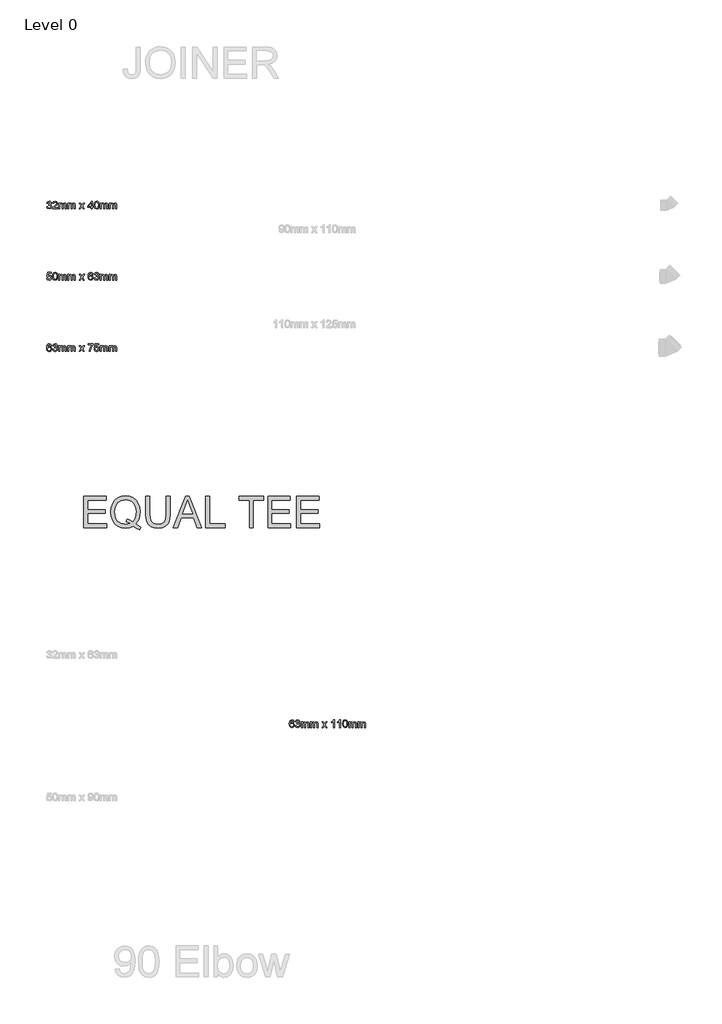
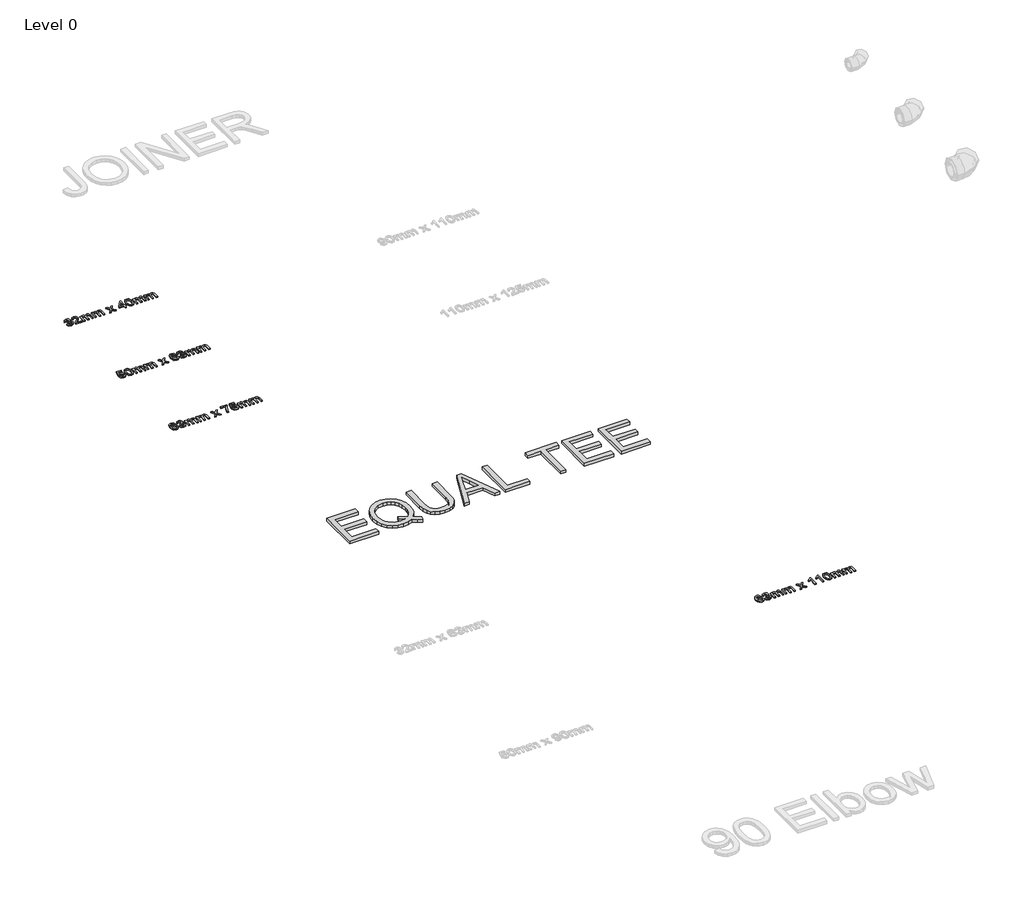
# One storey, part 8 of 21: 5 proxies.
"""IFC4 building model written with IfcOpenShell, lengths in millimetres."""

from ifc_helpers import new_model, si_unit, origin, origin_with_axes, place, context, project, spatial, polyline, outline, extrude, element, save

model = new_model("IFC4")

# Units and contexts
model_context = context("Model", 3, world=origin())
ifc_project = project(units=[si_unit("LENGTHUNIT", "METRE", prefix="MILLI")], contexts=[model_context])

# Site, building, storey
site = spatial("IfcSite", under=ifc_project)
building = spatial("IfcBuilding", under=site)
storey = spatial("IfcBuildingStorey", under=building, Name="Level 0", Elevation=0.0)

# Proxies
placement = place(None, origin())
element("IfcBuildingElementProxy", 1, Name="200mm Arial", ObjectType="200mm Arial", at=placement, inside=storey, context=model_context, shape_type="SweptSolid", body=[
    extrude(outline(polyline([(-11399.4990442, -4453.2112631), (-11399.4990442, -4252.2986428), (-11255.0930983, -4252.2986428), (-11255.0930983, -4277.4127203), (-11374.3849666, -4277.4127203), (-11374.3849666, -4337.0586545), (-11261.3716177, -4337.0586545), (-11261.3716177, -4362.172732), (-11374.3849666, -4362.172732), (-11374.3849666, -4428.0971856), (-11251.9538387, -4428.0971856), (-11251.9538387, -4453.2112631), (-11399.4990442, -4453.2112631)])), origin_with_axes(), (0.0, 0.0, 1.0), 15.0),
    extrude(outline(polyline([(-11063.3530025, -4429.1272551), (-11032.2056602, -4450.0720034), (-11038.9746889, -4468.4661032), (-11059.6864452, -4458.8643831), (-11080.3246252, -4444.9707064), (-11103.5625045, -4453.5055687), (-11129.1303032, -4456.3505228), (-11154.8207292, -4453.0702417), (-11178.0340831, -4443.2293983), (-11197.4766465, -4427.4472607), (-11211.8547012, -4406.3430969), (-11220.7390514, -4381.0757352), (-11223.7005014, -4352.8040039), (-11220.7451827, -4324.5077471), (-11211.8792266, -4298.8725034), (-11197.5563543, -4277.4679026), (-11178.2302868, -4261.8635747), (-11155.1027721, -4252.335431), (-11129.3755579, -4249.1593831), (-11103.4460086, -4252.4090074), (-11080.2019978, -4262.1578803), (-11060.9065872, -4277.7560769), (-11046.8228381, -4298.5536723), (-11038.2143995, -4323.4470207), (-11035.3449199, -4351.3324759), (-11037.086228, -4374.5213043), (-11042.3101523, -4395.2330607), (-11051.0534811, -4413.4432194), (-11063.3530025, -4429.1272551)]), holes=[polyline([(-11122.2141217, -4395.72357), (-11101.0976952, -4403.7066093), (-11084.0524961, -4414.8043828), (-11073.7303404, -4403.1547863), (-11066.3573721, -4388.9054903), (-11061.9335911, -4372.056495), (-11060.4589974, -4352.6078001), (-11062.5436621, -4330.5042236), (-11068.797656, -4311.3804912), (-11079.067695, -4295.720981), (-11093.200495, -4284.0100708), (-11110.2395627, -4276.7076132), (-11129.2284051, -4274.2734606), (-11156.5988255, -4279.196948), (-11178.8679489, -4293.9674101), (-11187.4947817, -4305.0268626), (-11193.6568052, -4318.5112706), (-11198.5864239, -4352.7549529), (-11193.7119874, -4386.2628713), (-11187.6189419, -4399.7104911), (-11179.0886781, -4410.9538846), (-11156.8869997, -4426.1658051), (-11129.277456, -4431.2364452), (-11102.2503921, -4426.0860973), (-11128.6888448, -4414.9515356), (-11122.2141217, -4395.72357)])]), origin_with_axes(), (0.0, 0.0, 1.0), 15.0),
    extrude(outline(polyline([(-10865.8248965, -4252.2986428), (-10840.710819, -4252.2986428), (-10840.710819, -4368.2059967), (-10842.4153389, -4395.3495566), (-10847.5288986, -4416.2513853), (-10857.0815678, -4432.3768794), (-10872.1034159, -4445.1914356), (-10892.6312312, -4453.560751), (-10918.701802, -4456.3505228), (-10944.2021556, -4453.9225016), (-10964.5889495, -4446.6384381), (-10979.868315, -4434.7497183), (-10990.0463836, -4418.5077282), (-10995.7669486, -4396.7229827), (-10997.6738036, -4368.2059967), (-10997.6738036, -4252.2986428), (-10972.559726, -4252.2986428), (-10972.559726, -4367.3230799), (-10971.32119, -4389.8926404), (-10967.6055818, -4405.6073329), (-10960.8733413, -4416.4905086), (-10950.5849082, -4424.5655184), (-10937.1694781, -4429.5687135), (-10921.0562467, -4431.2364452), (-10895.5129735, -4427.93777), (-10878.5290881, -4418.0417444), (-10869.0009444, -4398.7647278), (-10865.8248965, -4367.3230799), (-10865.8248965, -4252.2986428)])), origin_with_axes(), (0.0, 0.0, 1.0), 15.0),
    extrude(outline(polyline([(-10820.1584782, -4453.2112631), (-10739.9602032, -4252.2986428), (-10718.5739966, -4252.2986428), (-10638.3757216, -4453.2112631), (-10664.9122762, -4453.2112631), (-10687.9171636, -4390.4260692), (-10770.6660871, -4390.4260692), (-10793.6219236, -4453.2112631), (-10820.1584782, -4453.2112631)]), holes=[polyline([(-10761.4445118, -4365.3119917), (-10697.0896881, -4365.3119917), (-10715.1894822, -4315.9177025), (-10729.2670999, -4277.4127203), (-10741.7750877, -4311.6012204), (-10761.4445118, -4365.3119917)])]), origin_with_axes(), (0.0, 0.0, 1.0), 15.0),
    extrude(outline(polyline([(-10611.5448614, -4453.2112631), (-10611.5448614, -4252.2986428), (-10586.4307839, -4252.2986428), (-10586.4307839, -4428.0971856), (-10485.9744738, -4428.0971856), (-10485.9744738, -4453.2112631), (-10611.5448614, -4453.2112631)])), origin_with_axes(), (0.0, 0.0, 1.0), 15.0),
    extrude(outline(polyline([(-10329.0114892, -4453.2112631), (-10329.0114892, -4277.4127203), (-10394.9359427, -4277.4127203), (-10394.9359427, -4252.2986428), (-10237.9729581, -4252.2986428), (-10237.9729581, -4277.4127203), (-10303.8974116, -4277.4127203), (-10303.8974116, -4453.2112631), (-10329.0114892, -4453.2112631)])), origin_with_axes(), (0.0, 0.0, 1.0), 15.0),
    extrude(outline(polyline([(-10209.7196209, -4453.2112631), (-10209.7196209, -4252.2986428), (-10065.313675, -4252.2986428), (-10065.313675, -4277.4127203), (-10184.6055433, -4277.4127203), (-10184.6055433, -4337.0586545), (-10071.5921944, -4337.0586545), (-10071.5921944, -4362.172732), (-10184.6055433, -4362.172732), (-10184.6055433, -4428.0971856), (-10062.1744153, -4428.0971856), (-10062.1744153, -4453.2112631), (-10209.7196209, -4453.2112631)])), origin_with_axes(), (0.0, 0.0, 1.0), 15.0),
    extrude(outline(polyline([(-10024.503299, -4453.2112631), (-10024.503299, -4252.2986428), (-9880.0973532, -4252.2986428), (-9880.0973532, -4277.4127203), (-9999.3892215, -4277.4127203), (-9999.3892215, -4337.0586545), (-9886.3758726, -4337.0586545), (-9886.3758726, -4362.172732), (-9999.3892215, -4362.172732), (-9999.3892215, -4428.0971856), (-9876.9580935, -4428.0971856), (-9876.9580935, -4453.2112631), (-10024.503299, -4453.2112631)])), origin_with_axes(), (0.0, 0.0, 1.0), 15.0),
])
element("IfcBuildingElementProxy", 2, Name="50mm", ObjectType="50mm", at=placement, inside=storey, context=model_context, shape_type="SweptSolid", body=[
    extrude(outline(polyline([(-11638.2285688, -2383.2605095), (-11631.9500494, -2382.4756946), (-11628.4858273, -2389.0853078), (-11622.0049728, -2391.1086588), (-11614.3775528, -2388.3250183), (-11611.5448614, -2381.4333623), (-11614.3530273, -2374.9402451), (-11621.4899381, -2372.3712025), (-11625.8922593, -2373.0579155), (-11625.1932835, -2366.7793962), (-11617.0630914, -2365.0503508), (-11613.8993062, -2359.5075954), (-11616.1924373, -2354.5963707), (-11622.1030747, -2352.6527275), (-11628.0872885, -2354.6147648), (-11631.1652345, -2360.5008768), (-11637.4437539, -2359.7160618), (-11632.3056687, -2349.8690871), (-11622.3238039, -2346.3742082), (-11614.7515662, -2348.0971222), (-11609.4540654, -2352.8060117), (-11607.6207868, -2359.1397134), (-11609.3620949, -2364.9277234), (-11614.5124429, -2369.08479), (-11607.6698378, -2373.3767466), (-11605.2663421, -2381.5437269), (-11610.0733335, -2392.7763905), (-11622.225702, -2397.3871782), (-11633.2376364, -2393.4508408), (-11638.2285688, -2383.2605095)])), origin_with_axes(), (0.0, 0.0, 1.0), 5.0),
    extrude(outline(polyline([(-11567.5952258, -2390.3238438), (-11567.5952258, -2396.6023632), (-11600.5574525, -2396.6023632), (-11599.8830022, -2392.2736184), (-11596.0692922, -2385.6088229), (-11588.2088802, -2378.3308908), (-11577.3686241, -2367.8707794), (-11574.6585601, -2360.7583942), (-11577.2153399, -2355.0010409), (-11583.8923981, -2352.6527275), (-11590.8514992, -2354.9458586), (-11593.4941182, -2361.2856917), (-11599.7726376, -2360.5008768), (-11594.9595148, -2349.9917144), (-11583.7575081, -2346.3742082), (-11572.5187131, -2350.3963846), (-11568.3800407, -2360.3782494), (-11569.4959494, -2366.3318064), (-11573.2054262, -2372.4876984), (-11582.200141, -2381.0900058), (-11589.4228908, -2387.1294019), (-11592.2555822, -2390.3238438), (-11567.5952258, -2390.3238438)])), origin_with_axes(), (0.0, 0.0, 1.0), 5.0),
    extrude(outline(polyline([(-11559.7470765, -2396.6023632), (-11559.7470765, -2359.7160618), (-11553.4685571, -2359.7160618), (-11553.4685571, -2365.7861148), (-11549.1520751, -2360.8135765), (-11543.0084457, -2358.9312469), (-11536.7176636, -2360.8503647), (-11533.2595729, -2366.2275732), (-11528.360611, -2360.7553285), (-11522.1740621, -2358.9312469), (-11513.9641622, -2361.9662734), (-11511.0885513, -2371.3166074), (-11511.0885513, -2396.6023632), (-11517.3670707, -2396.6023632), (-11517.3670707, -2374.0144087), (-11517.9495505, -2368.7720903), (-11520.0587406, -2366.190785), (-11523.6455901, -2365.2097663), (-11529.8198762, -2367.7236266), (-11532.2785542, -2375.7802423), (-11532.2785542, -2396.6023632), (-11538.5570736, -2396.6023632), (-11538.5570736, -2373.3154329), (-11540.0102075, -2367.2331173), (-11544.7742793, -2365.2097663), (-11549.4218552, -2366.558667), (-11552.512064, -2370.507267), (-11553.4685571, -2377.999797), (-11553.4685571, -2396.6023632), (-11559.7470765, -2396.6023632)])), origin_with_axes(), (0.0, 0.0, 1.0), 5.0),
    extrude(outline(polyline([(-11501.6707722, -2396.6023632), (-11501.6707722, -2359.7160618), (-11495.3922528, -2359.7160618), (-11495.3922528, -2365.7861148), (-11491.0757708, -2360.8135765), (-11484.9321414, -2358.9312469), (-11478.6413593, -2360.8503647), (-11475.1832686, -2366.2275732), (-11470.2843067, -2360.7553285), (-11464.0977578, -2358.9312469), (-11455.8878579, -2361.9662734), (-11453.012247, -2371.3166074), (-11453.012247, -2396.6023632), (-11459.2907664, -2396.6023632), (-11459.2907664, -2374.0144087), (-11459.8732462, -2368.7720903), (-11461.9824363, -2366.190785), (-11465.5692858, -2365.2097663), (-11471.7435719, -2367.7236266), (-11474.2022499, -2375.7802423), (-11474.2022499, -2396.6023632), (-11480.4807693, -2396.6023632), (-11480.4807693, -2373.3154329), (-11481.9339032, -2367.2331173), (-11486.697975, -2365.2097663), (-11491.3455509, -2366.558667), (-11494.4357597, -2370.507267), (-11495.3922528, -2377.999797), (-11495.3922528, -2396.6023632), (-11501.6707722, -2396.6023632)])), origin_with_axes(), (0.0, 0.0, 1.0), 5.0),
    extrude(outline(polyline([(-11427.8981695, -2396.6023632), (-11414.4827394, -2378.0611107), (-11427.1133545, -2359.7160618), (-11419.5595109, -2359.7160618), (-11413.4649325, -2368.5452297), (-11410.6199784, -2372.714559), (-11408.155169, -2369.3055192), (-11401.2144621, -2359.7160618), (-11393.6606184, -2359.7160618), (-11406.9288957, -2378.0611107), (-11394.1511278, -2396.6023632), (-11401.7049714, -2396.6023632), (-11409.3937051, -2385.4555388), (-11410.8039194, -2383.4199251), (-11420.3443258, -2396.6023632), (-11427.8981695, -2396.6023632)])), origin_with_axes(), (0.0, 0.0, 1.0), 5.0),
    extrude(outline(polyline([(-11350.2014921, -2396.6023632), (-11350.2014921, -2384.8301394), (-11372.9611248, -2384.8301394), (-11372.9611248, -2378.55162), (-11348.6318622, -2347.1590231), (-11343.9229727, -2347.1590231), (-11343.9229727, -2378.55162), (-11337.6444533, -2378.55162), (-11337.6444533, -2384.8301394), (-11343.9229727, -2384.8301394), (-11343.9229727, -2396.6023632), (-11350.2014921, -2396.6023632)]), holes=[polyline([(-11350.2014921, -2378.55162), (-11350.2014921, -2359.1519761), (-11365.2356029, -2378.55162), (-11350.2014921, -2378.55162)])]), origin_with_axes(), (0.0, 0.0, 1.0), 5.0),
    extrude(outline(polyline([(-11332.1507488, -2371.8929559), (-11330.3052075, -2357.4413248), (-11324.8237658, -2349.1087977), (-11315.6696355, -2346.3742082), (-11308.336521, -2347.9928889), (-11303.2720122, -2352.6588589), (-11300.3289563, -2360.0900752), (-11299.1885221, -2371.8929559), (-11301.0156693, -2386.2832733), (-11306.4787169, -2394.6341946), (-11315.6696355, -2397.3871782), (-11327.1475537, -2392.6047122), (-11330.8999501, -2384.1097038), (-11332.1507488, -2371.8929559)]), holes=[polyline([(-11325.8722295, -2371.8806932), (-11322.9291735, -2387.4727584), (-11315.6696355, -2391.1086588), (-11308.4100974, -2387.4604957), (-11305.4670415, -2371.8806932), (-11308.3119956, -2356.4664376), (-11315.7432119, -2352.6527275), (-11322.8310716, -2356.0127164), (-11325.8722295, -2371.8806932)])]), origin_with_axes(), (0.0, 0.0, 1.0), 5.0),
    extrude(outline(polyline([(-11292.1251878, -2396.6023632), (-11292.1251878, -2359.7160618), (-11285.8466684, -2359.7160618), (-11285.8466684, -2365.7861148), (-11281.5301863, -2360.8135765), (-11275.386557, -2358.9312469), (-11269.0957749, -2360.8503647), (-11265.6376841, -2366.2275732), (-11260.7387222, -2360.7553285), (-11254.5521733, -2358.9312469), (-11246.3422735, -2361.9662734), (-11243.4666625, -2371.3166074), (-11243.4666625, -2396.6023632), (-11249.7451819, -2396.6023632), (-11249.7451819, -2374.0144087), (-11250.3276618, -2368.7720903), (-11252.4368519, -2366.190785), (-11256.0237013, -2365.2097663), (-11262.1979875, -2367.7236266), (-11264.6566655, -2375.7802423), (-11264.6566655, -2396.6023632), (-11270.9351848, -2396.6023632), (-11270.9351848, -2373.3154329), (-11272.3883187, -2367.2331173), (-11277.1523906, -2365.2097663), (-11281.7999664, -2366.558667), (-11284.8901752, -2370.507267), (-11285.8466684, -2377.999797), (-11285.8466684, -2396.6023632), (-11292.1251878, -2396.6023632)])), origin_with_axes(), (0.0, 0.0, 1.0), 5.0),
    extrude(outline(polyline([(-11234.0488835, -2396.6023632), (-11234.0488835, -2359.7160618), (-11227.7703641, -2359.7160618), (-11227.7703641, -2365.7861148), (-11223.453882, -2360.8135765), (-11217.3102527, -2358.9312469), (-11211.0194706, -2360.8503647), (-11207.5613798, -2366.2275732), (-11202.6624179, -2360.7553285), (-11196.475869, -2358.9312469), (-11188.2659692, -2361.9662734), (-11185.3903582, -2371.3166074), (-11185.3903582, -2396.6023632), (-11191.6688776, -2396.6023632), (-11191.6688776, -2374.0144087), (-11192.2513574, -2368.7720903), (-11194.3605476, -2366.190785), (-11197.947397, -2365.2097663), (-11204.1216832, -2367.7236266), (-11206.5803612, -2375.7802423), (-11206.5803612, -2396.6023632), (-11212.8588805, -2396.6023632), (-11212.8588805, -2373.3154329), (-11214.3120144, -2367.2331173), (-11219.0760863, -2365.2097663), (-11223.7236621, -2366.558667), (-11226.8138709, -2370.507267), (-11227.7703641, -2377.999797), (-11227.7703641, -2396.6023632), (-11234.0488835, -2396.6023632)])), origin_with_axes(), (0.0, 0.0, 1.0), 5.0),
])
element("IfcBuildingElementProxy", 3, Name="50mm", ObjectType="50mm", at=placement, inside=storey, context=model_context, shape_type="SweptSolid", body=[
    extrude(outline(polyline([(-11638.2285688, -2843.2605095), (-11631.9500494, -2842.4756946), (-11628.7862643, -2848.9442864), (-11622.225702, -2851.1086588), (-11614.3530273, -2848.0981578), (-11611.5448614, -2840.1089871), (-11614.1752177, -2832.6532453), (-11622.1276002, -2829.9186558), (-11627.6396987, -2831.0100391), (-11631.1652345, -2833.8427305), (-11637.4437539, -2833.0579155), (-11631.9500494, -2807.1590231), (-11607.6207868, -2807.1590231), (-11607.6207868, -2813.4375425), (-11626.8732779, -2813.4375425), (-11629.5588165, -2827.2699055), (-11620.3740293, -2823.6401365), (-11609.6380064, -2828.1405595), (-11605.2663421, -2839.7165797), (-11609.2026794, -2851.3661762), (-11614.8557994, -2855.8819277), (-11622.2502275, -2857.3871782), (-11633.3296069, -2853.5182858), (-11638.2285688, -2843.2605095)])), origin_with_axes(), (0.0, 0.0, 1.0), 5.0),
    extrude(outline(polyline([(-11599.7726376, -2831.8929559), (-11597.9270963, -2817.4413248), (-11592.4456545, -2809.1087977), (-11583.2915242, -2806.3742082), (-11575.9584098, -2807.9928889), (-11570.893901, -2812.6588589), (-11567.950845, -2820.0900752), (-11566.8104108, -2831.8929559), (-11568.6375581, -2846.2832733), (-11574.1006057, -2854.6341946), (-11583.2915242, -2857.3871782), (-11594.7694425, -2852.6047122), (-11598.5218388, -2844.1097038), (-11599.7726376, -2831.8929559)]), holes=[polyline([(-11593.4941182, -2831.8806932), (-11590.5510623, -2847.4727584), (-11583.2915242, -2851.1086588), (-11576.0319862, -2847.4604957), (-11573.0889302, -2831.8806932), (-11575.9338843, -2816.4664376), (-11583.3651006, -2812.6527275), (-11590.4529604, -2816.0127164), (-11593.4941182, -2831.8806932)])]), origin_with_axes(), (0.0, 0.0, 1.0), 5.0),
    extrude(outline(polyline([(-11559.7470765, -2856.6023632), (-11559.7470765, -2819.7160618), (-11553.4685571, -2819.7160618), (-11553.4685571, -2825.7861148), (-11549.1520751, -2820.8135765), (-11543.0084457, -2818.9312469), (-11536.7176636, -2820.8503647), (-11533.2595729, -2826.2275732), (-11528.360611, -2820.7553285), (-11522.1740621, -2818.9312469), (-11513.9641622, -2821.9662734), (-11511.0885513, -2831.3166074), (-11511.0885513, -2856.6023632), (-11517.3670707, -2856.6023632), (-11517.3670707, -2834.0144087), (-11517.9495505, -2828.7720903), (-11520.0587406, -2826.190785), (-11523.6455901, -2825.2097663), (-11529.8198762, -2827.7236266), (-11532.2785542, -2835.7802423), (-11532.2785542, -2856.6023632), (-11538.5570736, -2856.6023632), (-11538.5570736, -2833.3154329), (-11540.0102075, -2827.2331173), (-11544.7742793, -2825.2097663), (-11549.4218552, -2826.558667), (-11552.512064, -2830.507267), (-11553.4685571, -2837.999797), (-11553.4685571, -2856.6023632), (-11559.7470765, -2856.6023632)])), origin_with_axes(), (0.0, 0.0, 1.0), 5.0),
    extrude(outline(polyline([(-11501.6707722, -2856.6023632), (-11501.6707722, -2819.7160618), (-11495.3922528, -2819.7160618), (-11495.3922528, -2825.7861148), (-11491.0757708, -2820.8135765), (-11484.9321414, -2818.9312469), (-11478.6413593, -2820.8503647), (-11475.1832686, -2826.2275732), (-11470.2843067, -2820.7553285), (-11464.0977578, -2818.9312469), (-11455.8878579, -2821.9662734), (-11453.012247, -2831.3166074), (-11453.012247, -2856.6023632), (-11459.2907664, -2856.6023632), (-11459.2907664, -2834.0144087), (-11459.8732462, -2828.7720903), (-11461.9824363, -2826.190785), (-11465.5692858, -2825.2097663), (-11471.7435719, -2827.7236266), (-11474.2022499, -2835.7802423), (-11474.2022499, -2856.6023632), (-11480.4807693, -2856.6023632), (-11480.4807693, -2833.3154329), (-11481.9339032, -2827.2331173), (-11486.697975, -2825.2097663), (-11491.3455509, -2826.558667), (-11494.4357597, -2830.507267), (-11495.3922528, -2837.999797), (-11495.3922528, -2856.6023632), (-11501.6707722, -2856.6023632)])), origin_with_axes(), (0.0, 0.0, 1.0), 5.0),
    extrude(outline(polyline([(-11427.8981695, -2856.6023632), (-11414.4827394, -2838.0611107), (-11427.1133545, -2819.7160618), (-11419.5595109, -2819.7160618), (-11413.4649325, -2828.5452297), (-11410.6199784, -2832.714559), (-11408.155169, -2829.3055192), (-11401.2144621, -2819.7160618), (-11393.6606184, -2819.7160618), (-11406.9288957, -2838.0611107), (-11394.1511278, -2856.6023632), (-11401.7049714, -2856.6023632), (-11409.3937051, -2845.4555388), (-11410.8039194, -2843.4199251), (-11420.3443258, -2856.6023632), (-11427.8981695, -2856.6023632)])), origin_with_axes(), (0.0, 0.0, 1.0), 5.0),
    extrude(outline(polyline([(-11338.4292682, -2819.7160618), (-11344.7077876, -2820.5008768), (-11347.0867578, -2815.2646897), (-11353.37754, -2812.6527275), (-11359.0429227, -2814.1733065), (-11363.3287479, -2819.8816087), (-11365.1129756, -2831.0713528), (-11359.5763516, -2826.0620263), (-11352.7153524, -2824.4249514), (-11342.0467745, -2828.900849), (-11337.6444533, -2840.4646064), (-11339.7168552, -2849.1282274), (-11345.4190261, -2855.2595939), (-11353.6473201, -2857.3871782), (-11366.4434822, -2851.7463209), (-11370.1544918, -2844.2783164), (-11371.391495, -2833.1560174), (-11370.0180689, -2820.6510953), (-11365.8977905, -2812.1009045), (-11360.2722617, -2807.8058823), (-11352.9851325, -2806.3742082), (-11343.0645814, -2809.918138), (-11338.4292682, -2819.7160618)]), holes=[polyline([(-11365.1129756, -2840.3665045), (-11363.6598417, -2845.8050267), (-11359.7970808, -2849.7536268), (-11354.1378294, -2851.1086588), (-11346.73727, -2848.3004929), (-11343.9229727, -2840.6730728), (-11346.7004818, -2833.3706152), (-11354.3953468, -2830.7034708), (-11361.99211, -2833.3706152), (-11365.1129756, -2840.3665045)])]), origin_with_axes(), (0.0, 0.0, 1.0), 5.0),
    extrude(outline(polyline([(-11332.1507488, -2843.2605095), (-11325.8722295, -2842.4756946), (-11322.4080073, -2849.0853078), (-11315.9271529, -2851.1086588), (-11308.2997328, -2848.3250183), (-11305.4670415, -2841.4333623), (-11308.2752074, -2834.9402451), (-11315.4121181, -2832.3712025), (-11319.8144393, -2833.0579155), (-11319.1154635, -2826.7793962), (-11310.9852714, -2825.0503508), (-11307.8214862, -2819.5075954), (-11310.1146173, -2814.5963707), (-11316.0252547, -2812.6527275), (-11322.0094685, -2814.6147648), (-11325.0874145, -2820.5008768), (-11331.3659339, -2819.7160618), (-11326.2278487, -2809.8690871), (-11316.2459839, -2806.3742082), (-11308.6737462, -2808.0971222), (-11303.3762455, -2812.8060117), (-11301.5429668, -2819.1397134), (-11303.284275, -2824.9277234), (-11308.4346229, -2829.08479), (-11301.5920178, -2833.3767466), (-11299.1885221, -2841.5437269), (-11303.9955135, -2852.7763905), (-11316.1478821, -2857.3871782), (-11327.1598164, -2853.4508408), (-11332.1507488, -2843.2605095)])), origin_with_axes(), (0.0, 0.0, 1.0), 5.0),
    extrude(outline(polyline([(-11292.1251878, -2856.6023632), (-11292.1251878, -2819.7160618), (-11285.8466684, -2819.7160618), (-11285.8466684, -2825.7861148), (-11281.5301863, -2820.8135765), (-11275.386557, -2818.9312469), (-11269.0957749, -2820.8503647), (-11265.6376841, -2826.2275732), (-11260.7387222, -2820.7553285), (-11254.5521733, -2818.9312469), (-11246.3422735, -2821.9662734), (-11243.4666625, -2831.3166074), (-11243.4666625, -2856.6023632), (-11249.7451819, -2856.6023632), (-11249.7451819, -2834.0144087), (-11250.3276618, -2828.7720903), (-11252.4368519, -2826.190785), (-11256.0237013, -2825.2097663), (-11262.1979875, -2827.7236266), (-11264.6566655, -2835.7802423), (-11264.6566655, -2856.6023632), (-11270.9351848, -2856.6023632), (-11270.9351848, -2833.3154329), (-11272.3883187, -2827.2331173), (-11277.1523906, -2825.2097663), (-11281.7999664, -2826.558667), (-11284.8901752, -2830.507267), (-11285.8466684, -2837.999797), (-11285.8466684, -2856.6023632), (-11292.1251878, -2856.6023632)])), origin_with_axes(), (0.0, 0.0, 1.0), 5.0),
    extrude(outline(polyline([(-11234.0488835, -2856.6023632), (-11234.0488835, -2819.7160618), (-11227.7703641, -2819.7160618), (-11227.7703641, -2825.7861148), (-11223.453882, -2820.8135765), (-11217.3102527, -2818.9312469), (-11211.0194706, -2820.8503647), (-11207.5613798, -2826.2275732), (-11202.6624179, -2820.7553285), (-11196.475869, -2818.9312469), (-11188.2659692, -2821.9662734), (-11185.3903582, -2831.3166074), (-11185.3903582, -2856.6023632), (-11191.6688776, -2856.6023632), (-11191.6688776, -2834.0144087), (-11192.2513574, -2828.7720903), (-11194.3605476, -2826.190785), (-11197.947397, -2825.2097663), (-11204.1216832, -2827.7236266), (-11206.5803612, -2835.7802423), (-11206.5803612, -2856.6023632), (-11212.8588805, -2856.6023632), (-11212.8588805, -2833.3154329), (-11214.3120144, -2827.2331173), (-11219.0760863, -2825.2097663), (-11223.7236621, -2826.558667), (-11226.8138709, -2830.507267), (-11227.7703641, -2837.999797), (-11227.7703641, -2856.6023632), (-11234.0488835, -2856.6023632)])), origin_with_axes(), (0.0, 0.0, 1.0), 5.0),
])
element("IfcBuildingElementProxy", 4, Name="50mm", ObjectType="50mm", at=placement, inside=storey, context=model_context, shape_type="SweptSolid", body=[
    extrude(outline(polyline([(-11606.051157, -3279.7160618), (-11612.3296764, -3280.5008768), (-11614.7086466, -3275.2646897), (-11620.9994287, -3272.6527275), (-11626.6648115, -3274.1733065), (-11630.9506367, -3279.8816087), (-11632.7348644, -3291.0713528), (-11627.1982403, -3286.0620263), (-11620.3372411, -3284.4249514), (-11609.6686633, -3288.900849), (-11605.2663421, -3300.4646064), (-11607.338744, -3309.1282274), (-11613.0409149, -3315.2595939), (-11621.2692089, -3317.3871782), (-11634.0653709, -3311.7463209), (-11637.7763805, -3304.2783164), (-11639.0133838, -3293.1560174), (-11637.6399576, -3280.6510953), (-11633.5196793, -3272.1009045), (-11627.8941505, -3267.8058823), (-11620.6070213, -3266.3742082), (-11610.6864701, -3269.918138), (-11606.051157, -3279.7160618)]), holes=[polyline([(-11632.7348644, -3300.3665045), (-11631.2817305, -3305.8050267), (-11627.4189695, -3309.7536268), (-11621.7597182, -3311.1086588), (-11614.3591587, -3308.3004929), (-11611.5448614, -3300.6730728), (-11614.3223705, -3293.3706152), (-11622.0172356, -3290.7034708), (-11629.6139988, -3293.3706152), (-11632.7348644, -3300.3665045)])]), origin_with_axes(), (0.0, 0.0, 1.0), 5.0),
    extrude(outline(polyline([(-11599.7726376, -3303.2605095), (-11593.4941182, -3302.4756946), (-11590.0298961, -3309.0853078), (-11583.5490416, -3311.1086588), (-11575.9216216, -3308.3250183), (-11573.0889302, -3301.4333623), (-11575.8970961, -3294.9402451), (-11583.0340068, -3292.3712025), (-11587.436328, -3293.0579155), (-11586.7373522, -3286.7793962), (-11578.6071601, -3285.0503508), (-11575.443375, -3279.5075954), (-11577.7365061, -3274.5963707), (-11583.6471435, -3272.6527275), (-11589.6313573, -3274.6147648), (-11592.7093033, -3280.5008768), (-11598.9878227, -3279.7160618), (-11593.8497375, -3269.8690871), (-11583.8678727, -3266.3742082), (-11576.2956349, -3268.0971222), (-11570.9981342, -3272.8060117), (-11569.1648556, -3279.1397134), (-11570.9061637, -3284.9277234), (-11576.0565116, -3289.08479), (-11569.2139065, -3293.3767466), (-11566.8104108, -3301.5437269), (-11571.6174022, -3312.7763905), (-11583.7697708, -3317.3871782), (-11594.7817052, -3313.4508408), (-11599.7726376, -3303.2605095)])), origin_with_axes(), (0.0, 0.0, 1.0), 5.0),
    extrude(outline(polyline([(-11559.7470765, -3316.6023632), (-11559.7470765, -3279.7160618), (-11553.4685571, -3279.7160618), (-11553.4685571, -3285.7861148), (-11549.1520751, -3280.8135765), (-11543.0084457, -3278.9312469), (-11536.7176636, -3280.8503647), (-11533.2595729, -3286.2275732), (-11528.360611, -3280.7553285), (-11522.1740621, -3278.9312469), (-11513.9641622, -3281.9662734), (-11511.0885513, -3291.3166074), (-11511.0885513, -3316.6023632), (-11517.3670707, -3316.6023632), (-11517.3670707, -3294.0144087), (-11517.9495505, -3288.7720903), (-11520.0587406, -3286.190785), (-11523.6455901, -3285.2097663), (-11529.8198762, -3287.7236266), (-11532.2785542, -3295.7802423), (-11532.2785542, -3316.6023632), (-11538.5570736, -3316.6023632), (-11538.5570736, -3293.3154329), (-11540.0102075, -3287.2331173), (-11544.7742793, -3285.2097663), (-11549.4218552, -3286.558667), (-11552.512064, -3290.507267), (-11553.4685571, -3297.999797), (-11553.4685571, -3316.6023632), (-11559.7470765, -3316.6023632)])), origin_with_axes(), (0.0, 0.0, 1.0), 5.0),
    extrude(outline(polyline([(-11501.6707722, -3316.6023632), (-11501.6707722, -3279.7160618), (-11495.3922528, -3279.7160618), (-11495.3922528, -3285.7861148), (-11491.0757708, -3280.8135765), (-11484.9321414, -3278.9312469), (-11478.6413593, -3280.8503647), (-11475.1832686, -3286.2275732), (-11470.2843067, -3280.7553285), (-11464.0977578, -3278.9312469), (-11455.8878579, -3281.9662734), (-11453.012247, -3291.3166074), (-11453.012247, -3316.6023632), (-11459.2907664, -3316.6023632), (-11459.2907664, -3294.0144087), (-11459.8732462, -3288.7720903), (-11461.9824363, -3286.190785), (-11465.5692858, -3285.2097663), (-11471.7435719, -3287.7236266), (-11474.2022499, -3295.7802423), (-11474.2022499, -3316.6023632), (-11480.4807693, -3316.6023632), (-11480.4807693, -3293.3154329), (-11481.9339032, -3287.2331173), (-11486.697975, -3285.2097663), (-11491.3455509, -3286.558667), (-11494.4357597, -3290.507267), (-11495.3922528, -3297.999797), (-11495.3922528, -3316.6023632), (-11501.6707722, -3316.6023632)])), origin_with_axes(), (0.0, 0.0, 1.0), 5.0),
    extrude(outline(polyline([(-11427.8981695, -3316.6023632), (-11414.4827394, -3298.0611107), (-11427.1133545, -3279.7160618), (-11419.5595109, -3279.7160618), (-11413.4649325, -3288.5452297), (-11410.6199784, -3292.714559), (-11408.155169, -3289.3055192), (-11401.2144621, -3279.7160618), (-11393.6606184, -3279.7160618), (-11406.9288957, -3298.0611107), (-11394.1511278, -3316.6023632), (-11401.7049714, -3316.6023632), (-11409.3937051, -3305.4555388), (-11410.8039194, -3303.4199251), (-11420.3443258, -3316.6023632), (-11427.8981695, -3316.6023632)])), origin_with_axes(), (0.0, 0.0, 1.0), 5.0),
    extrude(outline(polyline([(-11370.6066801, -3273.4375425), (-11370.6066801, -3267.1590231), (-11337.6444533, -3267.1590231), (-11337.6444533, -3272.2357946), (-11346.9947874, -3285.7431952), (-11354.1500922, -3302.9539412), (-11356.4800115, -3316.6023632), (-11362.7585308, -3316.6023632), (-11360.2630646, -3302.4389064), (-11353.4143282, -3286.4299083), (-11343.9229727, -3273.4375425), (-11370.6066801, -3273.4375425)])), origin_with_axes(), (0.0, 0.0, 1.0), 5.0),
    extrude(outline(polyline([(-11332.1507488, -3303.2605095), (-11325.8722295, -3302.4756946), (-11322.7084443, -3308.9442864), (-11316.1478821, -3311.1086588), (-11308.2752074, -3308.0981578), (-11305.4670415, -3300.1089871), (-11308.0973977, -3292.6532453), (-11316.0497802, -3289.9186558), (-11321.5618788, -3291.0100391), (-11325.0874145, -3293.8427305), (-11331.3659339, -3293.0579155), (-11325.8722295, -3267.1590231), (-11301.5429668, -3267.1590231), (-11301.5429668, -3273.4375425), (-11320.7954579, -3273.4375425), (-11323.4809965, -3287.2699055), (-11314.2962093, -3283.6401365), (-11303.5601865, -3288.1405595), (-11299.1885221, -3299.7165797), (-11303.1248594, -3311.3661762), (-11308.7779794, -3315.8819277), (-11316.1724075, -3317.3871782), (-11327.2517869, -3313.5182858), (-11332.1507488, -3303.2605095)])), origin_with_axes(), (0.0, 0.0, 1.0), 5.0),
    extrude(outline(polyline([(-11292.1251878, -3316.6023632), (-11292.1251878, -3279.7160618), (-11285.8466684, -3279.7160618), (-11285.8466684, -3285.7861148), (-11281.5301863, -3280.8135765), (-11275.386557, -3278.9312469), (-11269.0957749, -3280.8503647), (-11265.6376841, -3286.2275732), (-11260.7387222, -3280.7553285), (-11254.5521733, -3278.9312469), (-11246.3422735, -3281.9662734), (-11243.4666625, -3291.3166074), (-11243.4666625, -3316.6023632), (-11249.7451819, -3316.6023632), (-11249.7451819, -3294.0144087), (-11250.3276618, -3288.7720903), (-11252.4368519, -3286.190785), (-11256.0237013, -3285.2097663), (-11262.1979875, -3287.7236266), (-11264.6566655, -3295.7802423), (-11264.6566655, -3316.6023632), (-11270.9351848, -3316.6023632), (-11270.9351848, -3293.3154329), (-11272.3883187, -3287.2331173), (-11277.1523906, -3285.2097663), (-11281.7999664, -3286.558667), (-11284.8901752, -3290.507267), (-11285.8466684, -3297.999797), (-11285.8466684, -3316.6023632), (-11292.1251878, -3316.6023632)])), origin_with_axes(), (0.0, 0.0, 1.0), 5.0),
    extrude(outline(polyline([(-11234.0488835, -3316.6023632), (-11234.0488835, -3279.7160618), (-11227.7703641, -3279.7160618), (-11227.7703641, -3285.7861148), (-11223.453882, -3280.8135765), (-11217.3102527, -3278.9312469), (-11211.0194706, -3280.8503647), (-11207.5613798, -3286.2275732), (-11202.6624179, -3280.7553285), (-11196.475869, -3278.9312469), (-11188.2659692, -3281.9662734), (-11185.3903582, -3291.3166074), (-11185.3903582, -3316.6023632), (-11191.6688776, -3316.6023632), (-11191.6688776, -3294.0144087), (-11192.2513574, -3288.7720903), (-11194.3605476, -3286.190785), (-11197.947397, -3285.2097663), (-11204.1216832, -3287.7236266), (-11206.5803612, -3295.7802423), (-11206.5803612, -3316.6023632), (-11212.8588805, -3316.6023632), (-11212.8588805, -3293.3154329), (-11214.3120144, -3287.2331173), (-11219.0760863, -3285.2097663), (-11223.7236621, -3286.558667), (-11226.8138709, -3290.507267), (-11227.7703641, -3297.999797), (-11227.7703641, -3316.6023632), (-11234.0488835, -3316.6023632)])), origin_with_axes(), (0.0, 0.0, 1.0), 5.0),
])
element("IfcBuildingElementProxy", 5, Name="50mm", ObjectType="50mm", at=placement, inside=storey, context=model_context, shape_type="SweptSolid", body=[
    extrude(outline(polyline([(-10039.462485, -5706.9585336), (-10045.7410044, -5707.7433485), (-10048.1199746, -5702.5071615), (-10054.4107567, -5699.8951993), (-10060.0761395, -5701.4157782), (-10064.3619647, -5707.1240805), (-10066.1461924, -5718.3138245), (-10060.6095684, -5713.304498), (-10053.7485692, -5711.6674232), (-10043.0799913, -5716.1433208), (-10038.6776701, -5727.7070781), (-10040.750072, -5736.3706991), (-10046.4522429, -5742.5020657), (-10054.6805369, -5744.6296499), (-10067.4766989, -5738.9887927), (-10071.1877086, -5731.5207882), (-10072.4247118, -5720.3984892), (-10071.0512857, -5707.893567), (-10066.9310073, -5699.3433763), (-10061.3054785, -5695.048354), (-10054.0183493, -5693.6166799), (-10044.0977981, -5697.1606098), (-10039.462485, -5706.9585336)]), holes=[polyline([(-10066.1461924, -5727.6089763), (-10064.6930585, -5733.0474984), (-10060.8302976, -5736.9960985), (-10055.1710462, -5738.3511305), (-10047.7704867, -5735.5429646), (-10044.9561895, -5727.9155446), (-10047.7336985, -5720.613087), (-10055.4285636, -5717.9459425), (-10063.0253268, -5720.613087), (-10066.1461924, -5727.6089763)])]), origin_with_axes(), (0.0, 0.0, 1.0), 5.0),
    extrude(outline(polyline([(-10033.1839656, -5730.5029813), (-10026.9054462, -5729.7181664), (-10023.4412241, -5736.3277796), (-10016.9603696, -5738.3511305), (-10009.3329496, -5735.5674901), (-10006.5002582, -5728.6758341), (-10009.3084241, -5722.1827169), (-10016.4453348, -5719.6136743), (-10020.8476561, -5720.3003873), (-10020.1486803, -5714.0218679), (-10012.0184882, -5712.2928225), (-10008.854703, -5706.7500672), (-10011.1478341, -5701.8388425), (-10017.0584715, -5699.8951993), (-10023.0426853, -5701.8572366), (-10026.1206313, -5707.7433485), (-10032.3991507, -5706.9585336), (-10027.2610655, -5697.1115589), (-10017.2792007, -5693.6166799), (-10009.706963, -5695.3395939), (-10004.4094622, -5700.0484835), (-10002.5761836, -5706.3821852), (-10004.3174917, -5712.1701952), (-10009.4678397, -5716.3272618), (-10002.6252346, -5720.6192184), (-10000.2217389, -5728.7861987), (-10005.0287303, -5740.0188623), (-10017.1810988, -5744.6296499), (-10028.1930332, -5740.6933126), (-10033.1839656, -5730.5029813)])), origin_with_axes(), (0.0, 0.0, 1.0), 5.0),
    extrude(outline(polyline([(-9993.1584046, -5743.844835), (-9993.1584046, -5706.9585336), (-9986.8798852, -5706.9585336), (-9986.8798852, -5713.0285865), (-9982.5634031, -5708.0560482), (-9976.4197738, -5706.1737187), (-9970.1289917, -5708.0928364), (-9966.6709009, -5713.4700449), (-9961.771939, -5707.9978003), (-9955.5853901, -5706.1737187), (-9947.3754903, -5709.2087452), (-9944.4998793, -5718.5590792), (-9944.4998793, -5743.844835), (-9950.7783987, -5743.844835), (-9950.7783987, -5721.2568805), (-9951.3608785, -5716.0145621), (-9953.4700686, -5713.4332567), (-9957.0569181, -5712.4522381), (-9963.2312042, -5714.9660984), (-9965.6898822, -5723.0227141), (-9965.6898822, -5743.844835), (-9971.9684016, -5743.844835), (-9971.9684016, -5720.5579047), (-9973.4215355, -5714.4755891), (-9978.1856073, -5712.4522381), (-9982.8331832, -5713.8011387), (-9985.923392, -5717.7497388), (-9986.8798852, -5725.2422688), (-9986.8798852, -5743.844835), (-9993.1584046, -5743.844835)])), origin_with_axes(), (0.0, 0.0, 1.0), 5.0),
    extrude(outline(polyline([(-9935.0821002, -5743.844835), (-9935.0821002, -5706.9585336), (-9928.8035809, -5706.9585336), (-9928.8035809, -5713.0285865), (-9924.4870988, -5708.0560482), (-9918.3434695, -5706.1737187), (-9912.0526873, -5708.0928364), (-9908.5945966, -5713.4700449), (-9903.6956347, -5707.9978003), (-9897.5090858, -5706.1737187), (-9889.2991859, -5709.2087452), (-9886.423575, -5718.5590792), (-9886.423575, -5743.844835), (-9892.7020944, -5743.844835), (-9892.7020944, -5721.2568805), (-9893.2845742, -5716.0145621), (-9895.3937643, -5713.4332567), (-9898.9806138, -5712.4522381), (-9905.1548999, -5714.9660984), (-9907.6135779, -5723.0227141), (-9907.6135779, -5743.844835), (-9913.8920973, -5743.844835), (-9913.8920973, -5720.5579047), (-9915.3452312, -5714.4755891), (-9920.109303, -5712.4522381), (-9924.7568789, -5713.8011387), (-9927.8470877, -5717.7497388), (-9928.8035809, -5725.2422688), (-9928.8035809, -5743.844835), (-9935.0821002, -5743.844835)])), origin_with_axes(), (0.0, 0.0, 1.0), 5.0),
    extrude(outline(polyline([(-9861.3094975, -5743.844835), (-9847.8940674, -5725.3035824), (-9860.5246826, -5706.9585336), (-9852.9708389, -5706.9585336), (-9846.8762605, -5715.7877015), (-9844.0313064, -5719.9570308), (-9841.5664971, -5716.547991), (-9834.6257901, -5706.9585336), (-9827.0719465, -5706.9585336), (-9840.3402238, -5725.3035824), (-9827.5624558, -5743.844835), (-9835.1162994, -5743.844835), (-9842.8050331, -5732.6980105), (-9844.2152474, -5730.6623968), (-9853.7556538, -5743.844835), (-9861.3094975, -5743.844835)])), origin_with_axes(), (0.0, 0.0, 1.0), 5.0),
    extrude(outline(polyline([(-9780.4735604, -5743.844835), (-9786.7520798, -5743.844835), (-9786.7520798, -5704.7021907), (-9792.6995054, -5708.938965), (-9799.3091186, -5712.1088815), (-9799.3091186, -5706.1737187), (-9790.1059373, -5700.2998695), (-9784.5202624, -5693.6166799), (-9780.4735604, -5693.6166799), (-9780.4735604, -5743.844835)])), origin_with_axes(), (0.0, 0.0, 1.0), 5.0),
    extrude(outline(polyline([(-9742.0176292, -5743.844835), (-9748.2961486, -5743.844835), (-9748.2961486, -5704.7021907), (-9754.2435741, -5708.938965), (-9760.8531873, -5712.1088815), (-9760.8531873, -5706.1737187), (-9751.6500061, -5700.2998695), (-9746.0643311, -5693.6166799), (-9742.0176292, -5693.6166799), (-9742.0176292, -5743.844835)])), origin_with_axes(), (0.0, 0.0, 1.0), 5.0),
    extrude(outline(polyline([(-9727.1061456, -5719.1354277), (-9725.2606043, -5704.6837966), (-9719.7791626, -5696.3512694), (-9710.6250323, -5693.6166799), (-9703.2919178, -5695.2353607), (-9698.227409, -5699.9013307), (-9695.2843531, -5707.332547), (-9694.1439189, -5719.1354277), (-9695.9710661, -5733.525745), (-9701.4341137, -5741.8766663), (-9710.6250323, -5744.6296499), (-9722.1029505, -5739.847184), (-9725.8553469, -5731.3521756), (-9727.1061456, -5719.1354277)]), holes=[polyline([(-9720.8276263, -5719.1231649), (-9717.8845703, -5734.7152302), (-9710.6250323, -5738.3511305), (-9703.3654942, -5734.7029674), (-9700.4224383, -5719.1231649), (-9703.2673924, -5703.7089093), (-9710.6986087, -5699.8951993), (-9717.7864684, -5703.2551882), (-9720.8276263, -5719.1231649)])]), origin_with_axes(), (0.0, 0.0, 1.0), 5.0),
    extrude(outline(polyline([(-9687.0805846, -5743.844835), (-9687.0805846, -5706.9585336), (-9680.8020652, -5706.9585336), (-9680.8020652, -5713.0285865), (-9676.4855831, -5708.0560482), (-9670.3419538, -5706.1737187), (-9664.0511717, -5708.0928364), (-9660.5930809, -5713.4700449), (-9655.694119, -5707.9978003), (-9649.5075701, -5706.1737187), (-9641.2976703, -5709.2087452), (-9638.4220593, -5718.5590792), (-9638.4220593, -5743.844835), (-9644.7005787, -5743.844835), (-9644.7005787, -5721.2568805), (-9645.2830585, -5716.0145621), (-9647.3922487, -5713.4332567), (-9650.9790981, -5712.4522381), (-9657.1533843, -5714.9660984), (-9659.6120623, -5723.0227141), (-9659.6120623, -5743.844835), (-9665.8905816, -5743.844835), (-9665.8905816, -5720.5579047), (-9667.3437155, -5714.4755891), (-9672.1077874, -5712.4522381), (-9676.7553632, -5713.8011387), (-9679.845572, -5717.7497388), (-9680.8020652, -5725.2422688), (-9680.8020652, -5743.844835), (-9687.0805846, -5743.844835)])), origin_with_axes(), (0.0, 0.0, 1.0), 5.0),
    extrude(outline(polyline([(-9629.0042803, -5743.844835), (-9629.0042803, -5706.9585336), (-9622.7257609, -5706.9585336), (-9622.7257609, -5713.0285865), (-9618.4092788, -5708.0560482), (-9612.2656495, -5706.1737187), (-9605.9748674, -5708.0928364), (-9602.5167766, -5713.4700449), (-9597.6178147, -5707.9978003), (-9591.4312658, -5706.1737187), (-9583.221366, -5709.2087452), (-9580.345755, -5718.5590792), (-9580.345755, -5743.844835), (-9586.6242744, -5743.844835), (-9586.6242744, -5721.2568805), (-9587.2067542, -5716.0145621), (-9589.3159443, -5713.4332567), (-9592.9027938, -5712.4522381), (-9599.07708, -5714.9660984), (-9601.535758, -5723.0227141), (-9601.535758, -5743.844835), (-9607.8142773, -5743.844835), (-9607.8142773, -5720.5579047), (-9609.2674112, -5714.4755891), (-9614.0314831, -5712.4522381), (-9618.6790589, -5713.8011387), (-9621.7692677, -5717.7497388), (-9622.7257609, -5725.2422688), (-9622.7257609, -5743.844835), (-9629.0042803, -5743.844835)])), origin_with_axes(), (0.0, 0.0, 1.0), 5.0),
])

save(model, "model.ifc")
